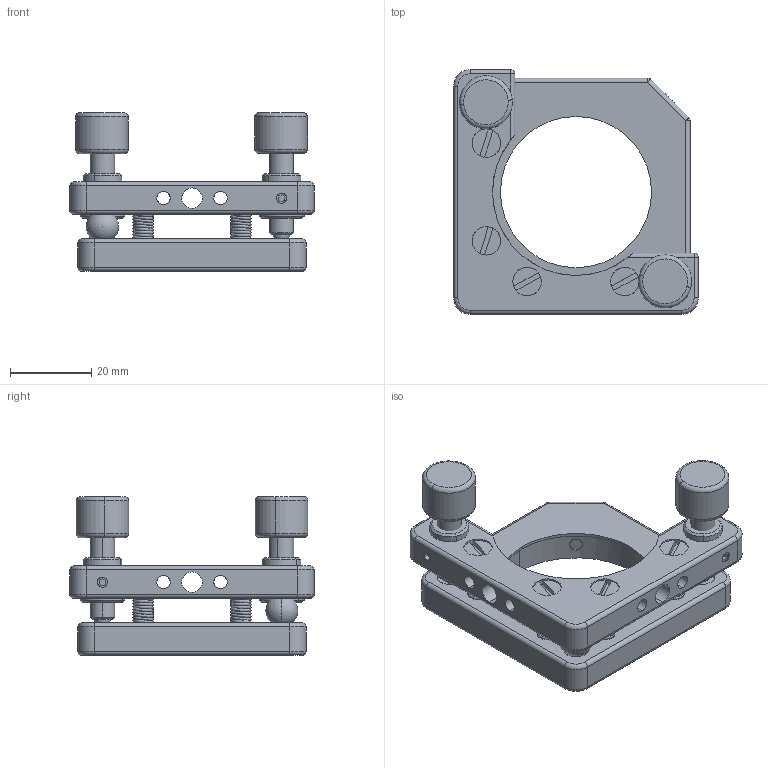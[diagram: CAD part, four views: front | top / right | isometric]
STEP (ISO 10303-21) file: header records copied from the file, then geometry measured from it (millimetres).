
FILE_DESCRIPTION (( 'STEP AP203' ), '1' );
FILE_NAME ('7MM07381謗峎覃淕噩殤.STEP', '2019-10-17T09:06:48', ( '' ), ( '' ), 'SwSTEP 2.0', 'SolidWorks 2014', '' );
FILE_SCHEMA (( 'CONFIG_CONTROL_DESIGN' ));
Length unit declared in the file: millimetre
Products named in the file (1): 7MM07381謗峎覃淕噩殤
Bounding box: 60 x 60 x 39 mm (x, y, z)
Surface area: 17184.4 mm2 (no closed solid volume)
Topology: 0 solids, 34 shells, 257 faces, 687 edges, 449 vertices
Faces by surface type: cylinder 111, plane 88, torus 20, cone 16, sphere 14, bspline 8
Entity records: 18776 total; most frequent: CARTESIAN_POINT 12362, DIRECTION 1457, ORIENTED_EDGE 1105, EDGE_CURVE 662, AXIS2_PLACEMENT_3D 595, VERTEX_POINT 440, CIRCLE 345, EDGE_LOOP 309
